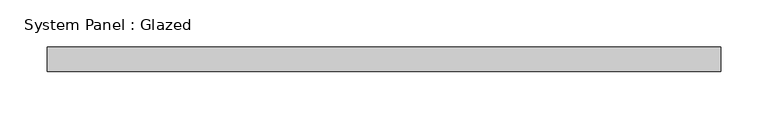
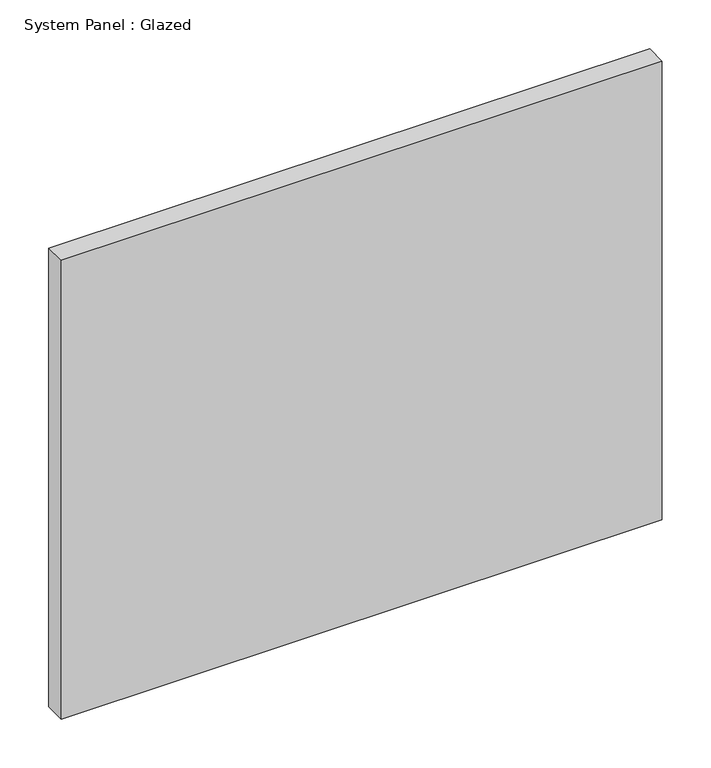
"""IFC4 building model written with IfcOpenShell, lengths in millimetres: plate geometry, System Panel : Glazed."""

from ifc_helpers import new_model, si_unit, origin, origin_with_axes, place, context, project, spatial, polyline, outline, extrude, source, transform, mapped, element, save


def system_panel_glazed_8bb109a9(model_context):
    return source(origin(), model_context, "Body", "SweptSolid", [
        extrude(outline(polyline([(354.2109376, -44.45), (-354.2109376, -44.45), (-354.2109376, -19.05), (354.2109376, -19.05), (354.2109376, -44.45)])), origin_with_axes(), (0.0, 0.0, 1.0), 571.5),
    ])


if __name__ == "__main__":
    model = new_model("IFC4")
    model_context = context("Model", 3, world=origin())
    ifc_project = project(units=[si_unit("LENGTHUNIT", "METRE", prefix="MILLI")], contexts=[model_context])
    site = spatial("IfcSite", under=ifc_project)
    building = spatial("IfcBuilding", under=site)
    placement = place(None, origin())
    system_panel_glazed_shape = system_panel_glazed_8bb109a9(model_context)
    element("IfcPlate", 1, ObjectType="System Panel : Glazed", at=placement, inside=building, context=model_context, shape_type="MappedRepresentation", body=[
        mapped(system_panel_glazed_shape, transform((0.0, 0.0, 0.0), x_axis=(1.0, 0.0, 0.0), y_axis=(0.0, 1.0, 0.0), z_axis=(0.0, 0.0, 1.0))),
    ])
    save(model, "model.ifc")
